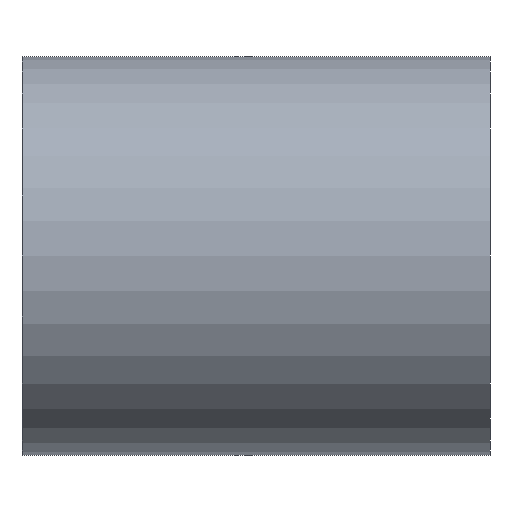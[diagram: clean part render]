
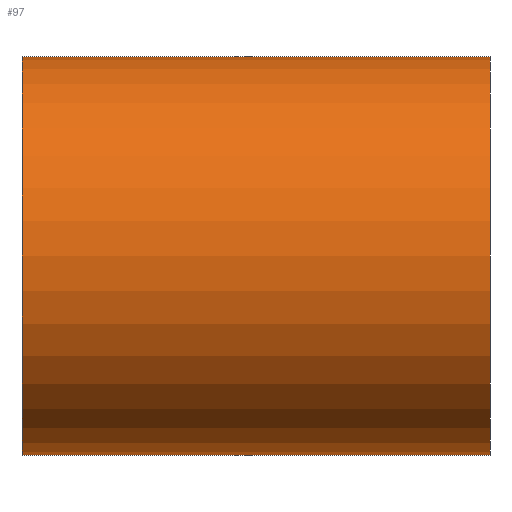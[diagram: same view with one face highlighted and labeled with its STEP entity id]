
A CAD part, left-side view. The second image highlights one B-rep face of the part: STEP entity #97.
In plain terms, the highlighted cylindrical face has radius 2 mm (diameter 4 mm), a partial arc.
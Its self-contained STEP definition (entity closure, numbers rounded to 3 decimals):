
#1 = VECTOR ( 'NONE', #58, 1000. ) ;
#5 = EDGE_CURVE ( 'NONE', #98, #153, #195, .T. ) ;
#6 = EDGE_CURVE ( 'NONE', #83, #198, #26, .T. ) ;
#8 = LINE ( 'NONE', #80, #191 ) ;
#11 = FACE_OUTER_BOUND ( 'NONE', #211, .T. ) ;
#26 = CIRCLE ( 'NONE', #154, 2. ) ;
#35 = ORIENTED_EDGE ( 'NONE', *, *, #5, .F. ) ;
#43 = AXIS2_PLACEMENT_3D ( 'NONE', #112, #105, #104 ) ;
#58 = DIRECTION ( 'NONE',  ( 0., -1., 0. ) ) ;
#59 = CARTESIAN_POINT ( 'NONE',  ( 0., 0., 2. ) ) ;
#74 = CARTESIAN_POINT ( 'NONE',  ( 0., 4.7, -2. ) ) ;
#80 = CARTESIAN_POINT ( 'NONE',  ( 0., 4.7, 2. ) ) ;
#82 = CARTESIAN_POINT ( 'NONE',  ( 0., 4.7, 2. ) ) ;
#83 = VERTEX_POINT ( 'NONE', #113 ) ;
#97 = ADVANCED_FACE ( 'NONE', ( #11 ), #172, .T. ) ;
#98 = VERTEX_POINT ( 'NONE', #101 ) ;
#101 = CARTESIAN_POINT ( 'NONE',  ( 0., 4.7, -2. ) ) ;
#104 = DIRECTION ( 'NONE',  ( 0., 0., -1. ) ) ;
#105 = DIRECTION ( 'NONE',  ( 0., -1., 0. ) ) ;
#112 = CARTESIAN_POINT ( 'NONE',  ( 0., 4.7, 0. ) ) ;
#113 = CARTESIAN_POINT ( 'NONE',  ( 0., 0., -2. ) ) ;
#116 = DIRECTION ( 'NONE',  ( 0., -1., 0. ) ) ;
#135 = DIRECTION ( 'NONE',  ( 0., 0., 1. ) ) ;
#138 = CARTESIAN_POINT ( 'NONE',  ( 0., 0., 0. ) ) ;
#142 = DIRECTION ( 'NONE',  ( 0., 1., 0. ) ) ;
#143 = CARTESIAN_POINT ( 'NONE',  ( 0., 4.7, 0. ) ) ;
#145 = DIRECTION ( 'NONE',  ( 0., 1., 0. ) ) ;
#147 = DIRECTION ( 'NONE',  ( 0., 0., 1. ) ) ;
#153 = VERTEX_POINT ( 'NONE', #82 ) ;
#154 = AXIS2_PLACEMENT_3D ( 'NONE', #138, #145, #135 ) ;
#160 = ORIENTED_EDGE ( 'NONE', *, *, #161, .F. ) ;
#161 = EDGE_CURVE ( 'NONE', #153, #198, #8, .T. ) ;
#172 = CYLINDRICAL_SURFACE ( 'NONE', #43, 2. ) ;
#175 = ORIENTED_EDGE ( 'NONE', *, *, #6, .T. ) ;
#181 = LINE ( 'NONE', #74, #1 ) ;
#191 = VECTOR ( 'NONE', #116, 1000. ) ;
#195 = CIRCLE ( 'NONE', #199, 2. ) ;
#198 = VERTEX_POINT ( 'NONE', #59 ) ;
#199 = AXIS2_PLACEMENT_3D ( 'NONE', #143, #142, #147 ) ;
#206 = EDGE_CURVE ( 'NONE', #98, #83, #181, .T. ) ;
#211 = EDGE_LOOP ( 'NONE', ( #160, #35, #214, #175 ) ) ;
#214 = ORIENTED_EDGE ( 'NONE', *, *, #206, .T. ) ;
